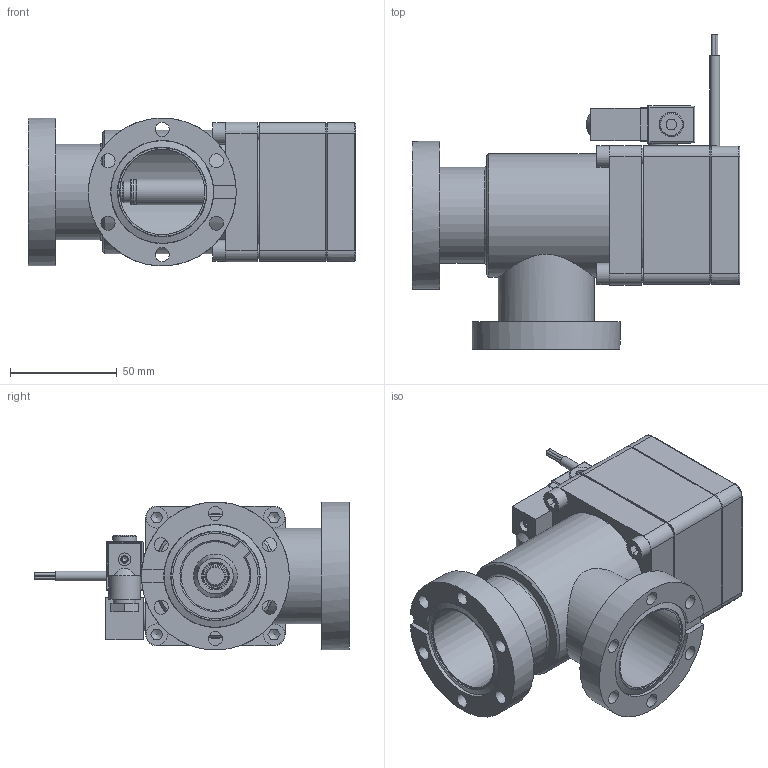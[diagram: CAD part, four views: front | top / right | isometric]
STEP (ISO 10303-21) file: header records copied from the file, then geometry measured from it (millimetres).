
FILE_DESCRIPTION(/* description */ (''),/* implementation_level */ '2;1');
FILE_NAME(/* name */ '1409687440_203.stp',/* time_stamp */ '2010-09-23T16:29:41+02:00',/* author */ (''),/* organization */ (''),/* preprocessor_version */ 'ST-DEVELOPER v11',/* originating_system */ 'SIEMENS UGS NX 6.0',/* authorisation */ '');
FILE_SCHEMA (('CONFIG_CONTROL_DESIGN'));
Length unit declared in the file: millimetre
Products named in the file (21): 264454; 257609.1; 264455.4; 257611; 222101_2; 239888_6.1; 233232; 236208.2; 236204_1.1; N-8501-400.2; 244091.2; 264450.3; N-6090-408.1; 224811.1; 232389.11; 264456.5; 264457.6; 402933; 402917; 329476.3; 307912.11
Assembly tree (30 placements, depth 4):
  307912.11
    232389.11
    224811.1  x4
    329476.3
      N-6090-408.1  x4
      264450.3
    402917
      244091.2
      N-8501-400.2
    402933
      236204_1.1  x2
      236208.2  x2
      233232
      239888_6.1
    264457.6
      264456.5
        264455.4
        257609.1
        264454
      222101_2  x2
      257611  x2
Bounding box: 153.76 x 147.69 x 69.35 mm (x, y, z)
Volume: 233139.9 mm3; surface area: 156281.8 mm2
Topology: 34 solids, 35 shells, 842 faces, 2011 edges, 1307 vertices
Faces by surface type: plane 496, cylinder 226, cone 83, bspline 18, torus 17, sphere 2
Full cylindrical faces by diameter (mm): 1.4 x8, 1.8 x1, 2 x6, 2.2 x4, 2.5 x3, 3 x7, 3.5 x1, 4.2 x1, 4.4 x4, 4.6 x2, 4.7 x2, 4.96 x4, 5 x8, 5.6 x2, 6 x13, 6.3 x4, 6.4 x4, 6.6 x12, 7.3 x8, 7.4 x2, 7.5 x1, 7.6 x1, 7.9 x1, 8 x2, 9.1 x1, 10 x5, 10.2 x1, 10.6 x1, 11.3 x1, 11.4 x1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
Entity records: 22720 total; most frequent: CARTESIAN_POINT 4295, DIRECTION 3267, ORIENTED_EDGE 2976, EDGE_CURVE 1488, AXIS2_PLACEMENT_3D 1168, VERTEX_POINT 1079, EDGE_LOOP 1012, LINE 931
